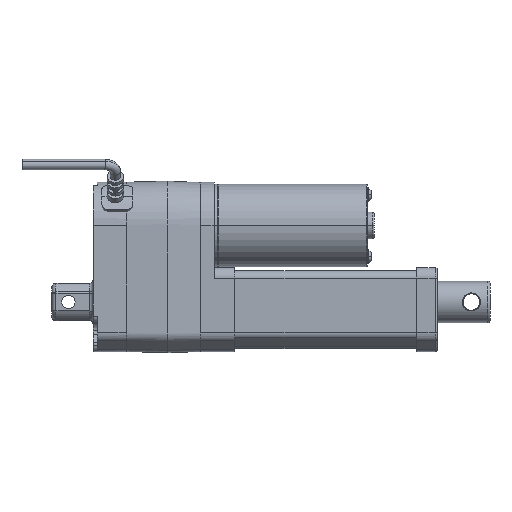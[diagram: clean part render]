
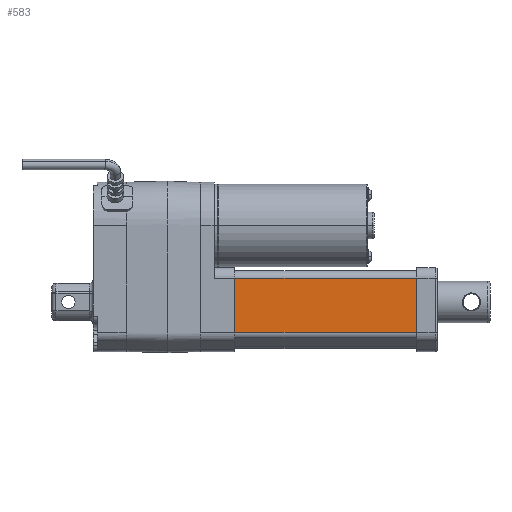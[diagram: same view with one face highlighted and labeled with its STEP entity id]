
A CAD part, top view. The second image highlights one B-rep face of the part: STEP entity #583.
In plain terms, the highlighted planar face has unit normal (0, 0, 1).
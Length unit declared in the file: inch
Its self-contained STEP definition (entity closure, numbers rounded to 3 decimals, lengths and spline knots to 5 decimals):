
#583=ADVANCED_FACE('',(#1371),#1372,.T.);
#1371=FACE_OUTER_BOUND('',#2400,.T.);
#1372=PLANE('',#2401);
#2400=EDGE_LOOP('',(#4420,#4421,#4422,#4423));
#2401=AXIS2_PLACEMENT_3D('',#4424,#4425,#4426);
#4420=ORIENTED_EDGE('',*,*,#6800,.F.);
#4421=ORIENTED_EDGE('',*,*,#6920,.F.);
#4422=ORIENTED_EDGE('',*,*,#6933,.T.);
#4423=ORIENTED_EDGE('',*,*,#6934,.T.);
#4424=CARTESIAN_POINT('',(6.16142,-0.5801,0.76772));
#4425=DIRECTION('',(0.0,-0.0,1.0));
#4426=DIRECTION('',(0.0,1.0,0.0));
#6800=EDGE_CURVE('',#8272,#8274,#8275,.T.);
#6920=EDGE_CURVE('',#8450,#8272,#8452,.T.);
#6933=EDGE_CURVE('',#8450,#8470,#8471,.T.);
#6934=EDGE_CURVE('',#8470,#8274,#8472,.T.);
#8272=VERTEX_POINT('',#10287);
#8274=VERTEX_POINT('',#10289);
#8275=LINE('',#10290,#10291);
#8450=VERTEX_POINT('',#10638);
#8452=LINE('',#10640,#10641);
#8470=VERTEX_POINT('',#10666);
#8471=LINE('',#10667,#10668);
#8472=LINE('',#10669,#10670);
#10287=CARTESIAN_POINT('',(2.69685,-0.5801,0.76772));
#10289=CARTESIAN_POINT('',(2.69685,0.45276,0.76772));
#10290=CARTESIAN_POINT('',(2.69685,0.45276,0.76772));
#10291=VECTOR('',#12506,39.37008);
#10638=CARTESIAN_POINT('',(6.16142,-0.5801,0.76772));
#10640=CARTESIAN_POINT('',(6.16142,-0.5801,0.76772));
#10641=VECTOR('',#12669,39.37008);
#10666=CARTESIAN_POINT('',(6.16142,0.45276,0.76772));
#10667=CARTESIAN_POINT('',(6.16142,-0.5801,0.76772));
#10668=VECTOR('',#12680,39.37008);
#10669=CARTESIAN_POINT('',(6.16142,0.45276,0.76772));
#10670=VECTOR('',#12681,39.37008);
#12506=DIRECTION('',(0.0,1.0,0.0));
#12669=DIRECTION('',(-1.0,0.0,0.0));
#12680=DIRECTION('',(0.0,1.0,0.0));
#12681=DIRECTION('',(-1.0,0.0,0.0));
